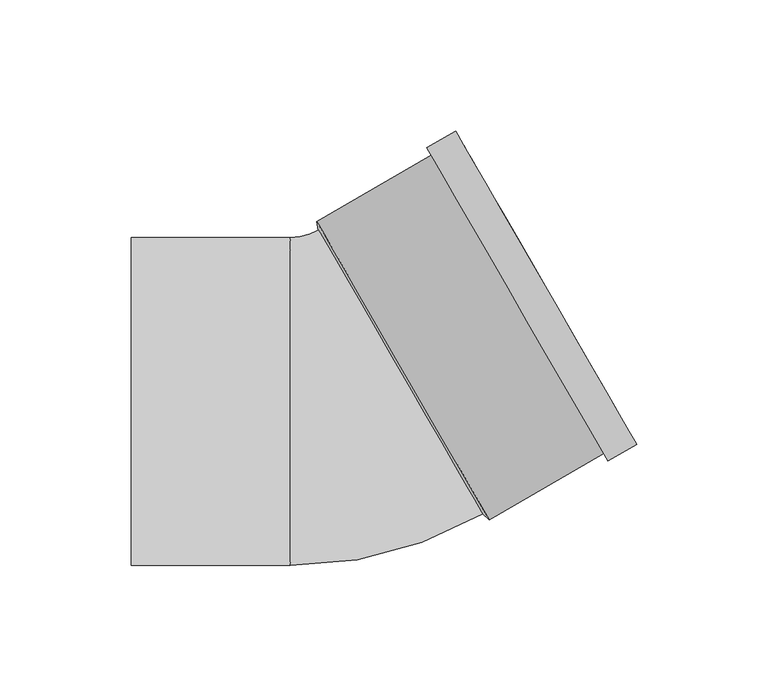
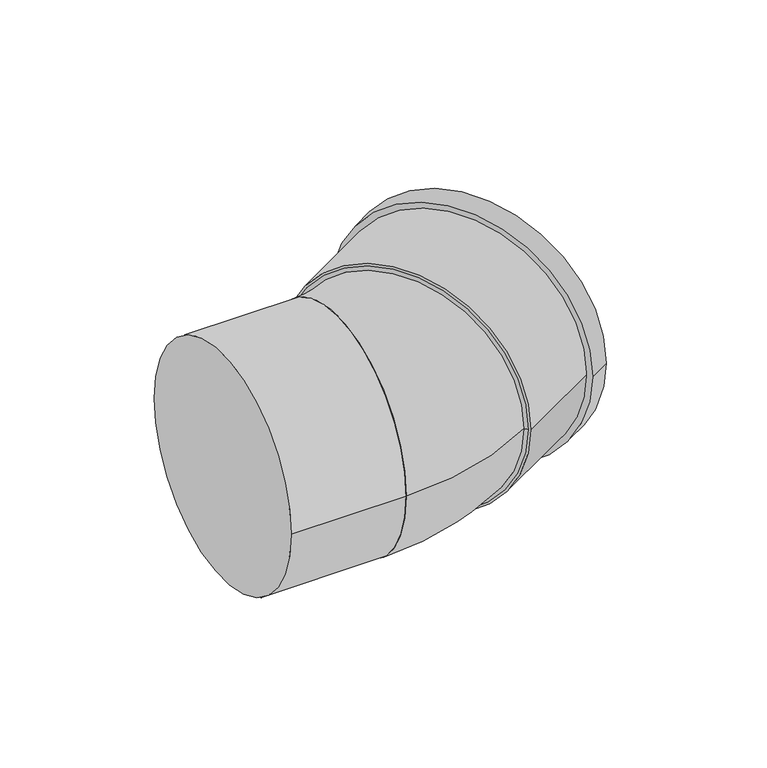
"""IFC4 building model written with IfcOpenShell, lengths in millimetres: pipe fitting geometry, Superdrain HT bend : Superdrain HT Bend."""

from ifc_helpers import new_model, si_unit, point, frame, origin, origin_2d, place, context, project, spatial, polyline, circle_curve, ellipse_curve, trimmed, segment, composite_curve, outline, extrude, source, transform, mapped, element, save
from ifc_brep_helpers import plane_surface, revolved_surface, advanced_brep


def pipe_fitting_914f9591(model_context):
    return source(origin(), model_context, "Body", "SolidModel", [
        advanced_brep(
        [(50.7355716, -42.8765877, 0.0), (-11.7644284, 65.3765877, 0.0), (-22.5, -62.5, 0.0), (-22.5, 62.5, 0.0)],
        [
            (0, 1, circle_curve(frame((19.4855716, 11.25, 0.0), z_axis=(0.8660254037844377, 0.5000000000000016, 0.0), x_axis=(-0.5000000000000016, 0.8660254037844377, 0.0)), 62.5)),
            (1, 0, circle_curve(frame((19.4855716, 11.25, 0.0), z_axis=(0.8660254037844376, 0.5000000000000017, 0.0), x_axis=(-0.5000000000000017, 0.8660254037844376, 0.0)), 62.5)),
            (2, 3, circle_curve(frame((-22.5, 0.0, 0.0), z_axis=(-1.0, 0.0, 0.0), x_axis=(0.0, 1.0, 0.0)), 62.5)),
            (3, 2, circle_curve(frame((-22.5, 0.0, 0.0), z_axis=(-1.0, 0.0, 0.0), x_axis=(0.0, 1.0, 0.0)), 62.5)),
            (3, 1, circle_curve(frame((-22.5, 83.9711432, 0.0), z_axis=(0.0, 0.0, 1.0), x_axis=(1.0, 0.0, 0.0)), 21.4711432)),
            (0, 2, circle_curve(frame((-22.5, 83.9711432, 0.0), z_axis=(0.0, 0.0, -1.0), x_axis=(1.0, 0.0, 0.0)), 146.4711432)),
        ],
        [
            plane_surface(frame((19.4855716, 11.25, 0.0), z_axis=(0.8660254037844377, 0.5000000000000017, 0.0), x_axis=(0.0, 0.0, -1.0))),
            plane_surface(frame((-22.5, 0.0, 0.0), z_axis=(-1.0, 0.0, 0.0), x_axis=(0.0, 0.0, -1.0))),
            revolved_surface(trimmed(ellipse_curve(frame((61.4711432, 83.9711432, 0.0), z_axis=(0.0, -1.0, 0.0), x_axis=(-1.0, 0.0, 0.0)), 62.5, 62.5), [point((-1.0288568, 83.9711432, 0.0))], [point((123.9711432, 83.9711432, 0.0))], True, "CARTESIAN"), (-22.5, 83.9711432, 0.0), (0.0, 0.0, 1.0)),
            revolved_surface(trimmed(ellipse_curve(frame((61.4711432, 83.9711432, 0.0), z_axis=(0.0, -1.0, 0.0), x_axis=(-1.0, 0.0, 0.0)), 62.5, 62.5), [point((123.9711432, 83.9711432, 0.0))], [point((-1.0288568, 83.9711432, 0.0))], True, "CARTESIAN"), (-22.5, 83.9711432, 0.0), (0.0, 0.0, 1.0)),
        ],
        [
            (0, [[1, 2]]),
            (1, [[3, 4]]),
            (2, [[-4, 5, -1, 6]]),
            (3, [[-3, -6, -2, -5]]),
        ],
    ),
        extrude(outline(composite_curve([segment(trimmed(circle_curve(origin_2d(), 65.625), [point((0.0, 65.625))], [point((0.0, -65.625))], False, "CARTESIAN"), True, "CONTINUOUS"), segment(trimmed(circle_curve(origin_2d(), 65.625), [point((0.0, -65.625))], [point((0.0, 65.625))], False, "CARTESIAN"), True, "CONTINUOUS")], self_intersect=False), holes=[composite_curve([segment(trimmed(circle_curve(origin_2d(), 62.5), [point((0.0, 62.5))], [point((0.0, -62.5))], True, "CARTESIAN"), True, "CONTINUOUS"), segment(trimmed(circle_curve(origin_2d(), 62.5), [point((0.0, -62.5))], [point((0.0, 62.5))], True, "CARTESIAN"), True, "CONTINUOUS")], self_intersect=False)]), frame((20.351597, 11.75, 0.0), z_axis=(0.8660254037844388, 0.4999999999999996, 0.0), x_axis=(0.0, 0.0, 1.0)), (0.0, 0.0, 1.0), 63.0),
        extrude(outline(composite_curve([segment(trimmed(circle_curve(origin_2d(), 68.90625), [point((0.0, -68.90625))], [point((0.0, 68.90625))], False, "CARTESIAN"), True, "CONTINUOUS"), segment(trimmed(circle_curve(origin_2d(), 68.90625), [point((0.0, 68.90625))], [point((0.0, -68.90625))], False, "CARTESIAN"), True, "CONTINUOUS")], self_intersect=False), holes=[composite_curve([segment(trimmed(circle_curve(origin_2d(), 62.5), [point((0.0, -62.5))], [point((0.0, 62.5))], True, "CARTESIAN"), True, "CONTINUOUS"), segment(trimmed(circle_curve(origin_2d(), 62.5), [point((0.0, 62.5))], [point((0.0, -62.5))], True, "CARTESIAN"), True, "CONTINUOUS")], self_intersect=False)]), frame((63.9992773, 36.95, 0.0), z_axis=(0.8660254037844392, 0.49999999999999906, 0.0), x_axis=(0.0, 0.0, 1.0)), (0.0, 0.0, 1.0), 12.6),
        advanced_brep(
        [(53.164097, -45.0829171, 0.0), (-12.460903, 68.5829171, 0.0), (50.7355716, -42.8765877, 0.0), (-11.7644284, 65.3765877, 0.0)],
        [
            (0, 1, circle_curve(frame((20.351597, 11.75, 0.0), z_axis=(0.8660254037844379, 0.5000000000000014, 0.0), x_axis=(0.5000000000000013, -0.8660254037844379, 0.0)), 65.625)),
            (1, 0, circle_curve(frame((20.351597, 11.75, 0.0), z_axis=(0.8660254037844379, 0.5000000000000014, 0.0), x_axis=(-0.5000000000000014, 0.8660254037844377, 0.0)), 65.625)),
            (2, 3, circle_curve(frame((19.4855716, 11.25, 0.0), z_axis=(-0.8660254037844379, -0.5000000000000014, 0.0), x_axis=(-0.5000000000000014, 0.8660254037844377, 0.0)), 62.5)),
            (3, 2, circle_curve(frame((19.4855716, 11.25, 0.0), z_axis=(-0.8660254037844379, -0.5000000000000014, 0.0), x_axis=(0.5000000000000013, -0.8660254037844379, 0.0)), 62.5)),
            (3, 1),
            (0, 2),
        ],
        [
            plane_surface(frame((20.351597, 11.75, 0.0), z_axis=(0.8660254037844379, 0.5000000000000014, 0.0), x_axis=(0.0, 0.0, -1.0))),
            plane_surface(frame((19.4855716, 11.25, 0.0), z_axis=(-0.8660254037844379, -0.5000000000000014, 0.0), x_axis=(0.0, 0.0, -1.0))),
            revolved_surface(polyline([(-11.764428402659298, 65.37658770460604, 0.0), (-12.460903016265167, 68.58291717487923, 0.0)]), (2.1650635, 1.25, 0.0), (0.8660254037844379, 0.5000000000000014, 0.0)),
            revolved_surface(polyline([(50.73557153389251, -42.8765876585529, 0.0), (53.164097, -45.0829171, 0.0)]), (2.1650635, 1.25, 0.0), (0.8660254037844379, 0.5000000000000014, 0.0)),
        ],
        [
            (0, [[1, 2]]),
            (1, [[3, 4]]),
            (2, [[-4, 5, -1, 6]]),
            (3, [[-3, -6, -2, -5]]),
        ],
    ),
        extrude(outline(composite_curve([segment(trimmed(circle_curve(origin_2d(), 62.5), [point((-62.5, 0.0))], [point((62.5, 0.0))], False, "CARTESIAN"), True, "CONTINUOUS"), segment(trimmed(circle_curve(origin_2d(), 62.5), [point((62.5, 0.0))], [point((-62.5, 0.0))], False, "CARTESIAN"), True, "CONTINUOUS")], self_intersect=False)), frame((-83.0, 0.0, 0.0), z_axis=(1.0, 0.0, 0.0), x_axis=(0.0, 1.0, 0.0)), (0.0, 0.0, 1.0), 60.5),
    ])


if __name__ == "__main__":
    model = new_model("IFC4")
    model_context = context("Model", 3, world=origin())
    ifc_project = project(units=[si_unit("LENGTHUNIT", "METRE", prefix="MILLI")], contexts=[model_context])
    site = spatial("IfcSite", under=ifc_project)
    building = spatial("IfcBuilding", under=site)
    placement = place(None, origin())
    pipe_fitting_shape = pipe_fitting_914f9591(model_context)
    element("IfcPipeFitting", 1, ObjectType="Superdrain HT bend : Superdrain HT Bend", at=placement, inside=building, context=model_context, shape_type="MappedRepresentation", body=[
        mapped(pipe_fitting_shape, transform((0.0, 0.0, 0.0), x_axis=(1.0, 0.0, 0.0), y_axis=(0.0, 1.0, 0.0), z_axis=(0.0, 0.0, 1.0))),
    ])
    save(model, "model.ifc")
